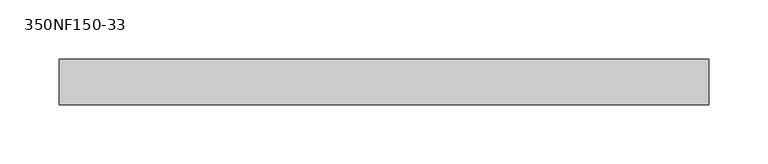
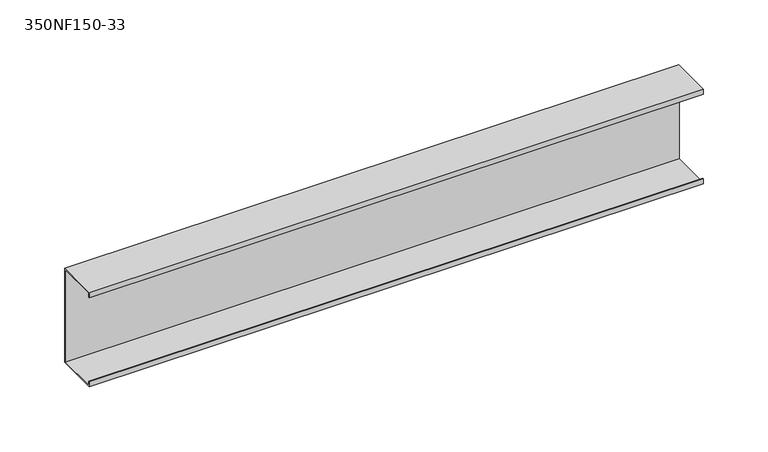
"""IFC4 building model written with IfcOpenShell, lengths in millimetres: beam geometry, BIMSF-SSMA-S : 350NF150-33."""

from ifc_helpers import new_model, si_unit, frame, origin, place, context, project, spatial, polyline, outline, extrude, source, transform, mapped, element, save


def beam_350nf150_33_fd0ba1fb(model_context):
    return source(origin(), model_context, "Body", "SweptSolid", [
        extrude(outline(polyline([(19.05, 44.45), (19.05, -44.45), (-19.05, -44.45), (-19.05, -39.6748), (-18.1676842, -39.6748), (-18.1676842, -43.5676842), (18.1676842, -43.5676842), (18.1676842, 43.5676842), (-18.1676842, 43.5676842), (-18.1676842, 39.6748), (-19.05, 39.6748), (-19.05, 44.45), (19.05, 44.45)])), frame((-273.5086107, 0.0, 0.0), z_axis=(1.0, 0.0, 0.0), x_axis=(0.0, 1.0, 0.0)), (0.0, 0.0, 1.0), 547.0172213),
    ])


if __name__ == "__main__":
    model = new_model("IFC4")
    model_context = context("Model", 3, world=origin())
    ifc_project = project(units=[si_unit("LENGTHUNIT", "METRE", prefix="MILLI")], contexts=[model_context])
    site = spatial("IfcSite", under=ifc_project)
    building = spatial("IfcBuilding", under=site)
    placement = place(None, origin())
    beam_350nf150_33_shape = beam_350nf150_33_fd0ba1fb(model_context)
    element("IfcBeam", 1, ObjectType="BIMSF-SSMA-S : 350NF150-33", at=placement, inside=building, context=model_context, shape_type="MappedRepresentation", body=[
        mapped(beam_350nf150_33_shape, transform((0.0, 0.0, 0.0), x_axis=(1.0, 0.0, 0.0), y_axis=(0.0, 1.0, 0.0), z_axis=(0.0, 0.0, 1.0))),
    ])
    save(model, "model.ifc")
